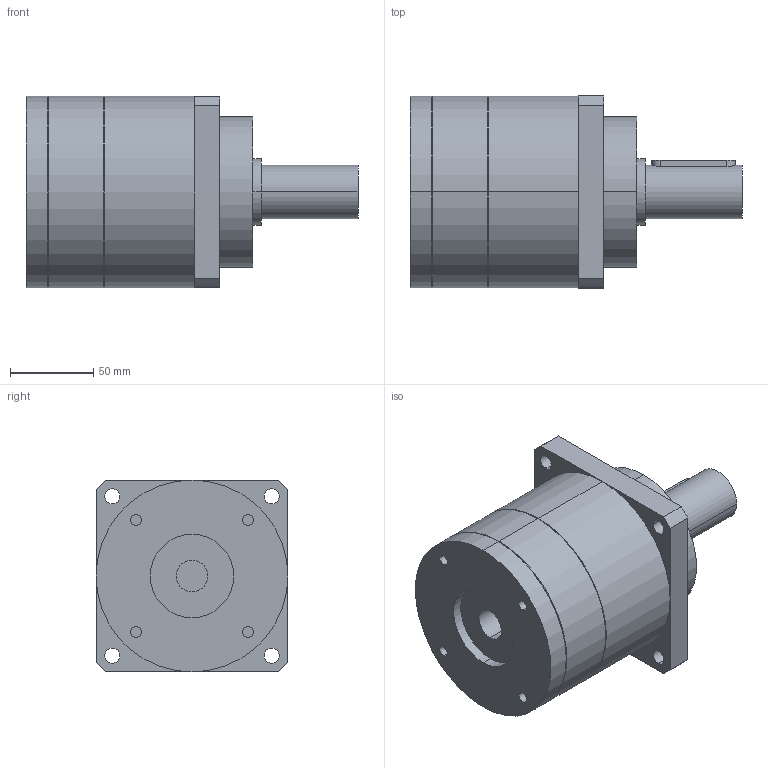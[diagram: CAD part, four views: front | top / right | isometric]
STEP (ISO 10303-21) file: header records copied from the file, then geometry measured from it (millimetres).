
FILE_DESCRIPTION(('CoCreate Modeling STEP Export'),'2;1');
FILE_NAME('GPT120_ig-3-4-5-7-10_32_B5A_19_P19.stp','2015-02-04T16:08:51',(''),(''),'CoCreate Modeling STEP processor for AP214 (Solid Model)','CoCreate Modeling 16.00C 25-Feb-2009 (C) Parametric Technology GmbH','');
FILE_SCHEMA(('AUTOMOTIVE_DESIGN { 1 0 10303 214 1 1 1 1 }'));
Length unit declared in the file: millimetre
Products named in the file (2): GPT120_ig-3-4-5-7-10_32_B5A_19_P19
Assembly tree (1 placements, depth 2):
  GPT120_ig-3-4-5-7-10_32_B5A_19_P19
    GPT120_ig-3-4-5-7-10_32_B5A_19_P19
Bounding box: 199 x 115 x 115 mm (x, y, z)
Volume: 1399932.4 mm3; surface area: 88378.4 mm2
Topology: 1 solids, 1 shells, 69 faces, 175 edges, 120 vertices
Faces by surface type: cylinder 40, plane 25, cone 4
Entity records: 2235 total; most frequent: CARTESIAN_POINT 702, ORIENTED_EDGE 350, DIRECTION 262, EDGE_CURVE 175, VERTEX_POINT 120, AXIS2_PLACEMENT_3D 98, EDGE_LOOP 89, FACE_OUTER_BOUND 69
